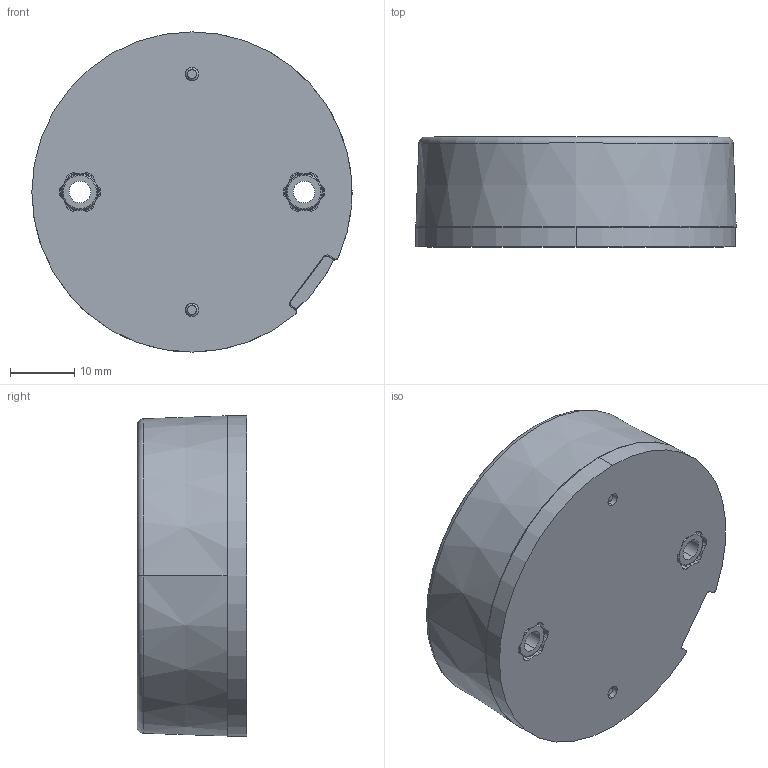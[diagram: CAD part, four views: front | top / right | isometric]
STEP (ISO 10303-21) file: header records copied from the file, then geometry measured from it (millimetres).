
FILE_DESCRIPTION (( 'STEP AP203' ), '1' );
FILE_NAME ('CTM1-19 ASSEMBLY PROFILE.STEP', '2014-09-18T23:46:08', ( '' ), ( '' ), 'SwSTEP 2.0', 'SolidWorks 2012', '' );
FILE_SCHEMA (( 'CONFIG_CONTROL_DESIGN' ));
Length unit declared in the file: inch
Products named in the file (1): CTM1-19 ASSEMBLY PROFILE
Bounding box: 50 x 17.14 x 50 mm (x, y, z)
Volume: 13318.5 mm3; surface area: 17927.2 mm2
Topology: 12 solids, 12 shells, 717 faces, 1827 edges, 1146 vertices
Faces by surface type: cylinder 292, cone 203, plane 155, torus 53, bspline 14
Entity records: 24941 total; most frequent: CARTESIAN_POINT 8132, ORIENTED_EDGE 3646, DIRECTION 3388, EDGE_CURVE 1823, AXIS2_PLACEMENT_3D 1346, VERTEX_POINT 1146, EDGE_LOOP 781, ADVANCED_FACE 717
